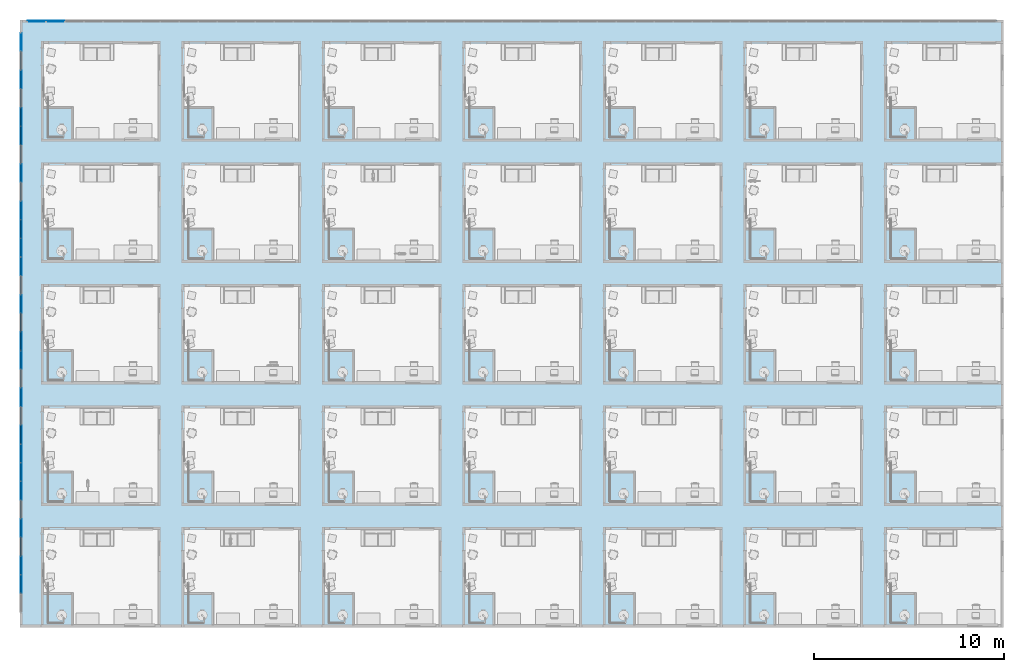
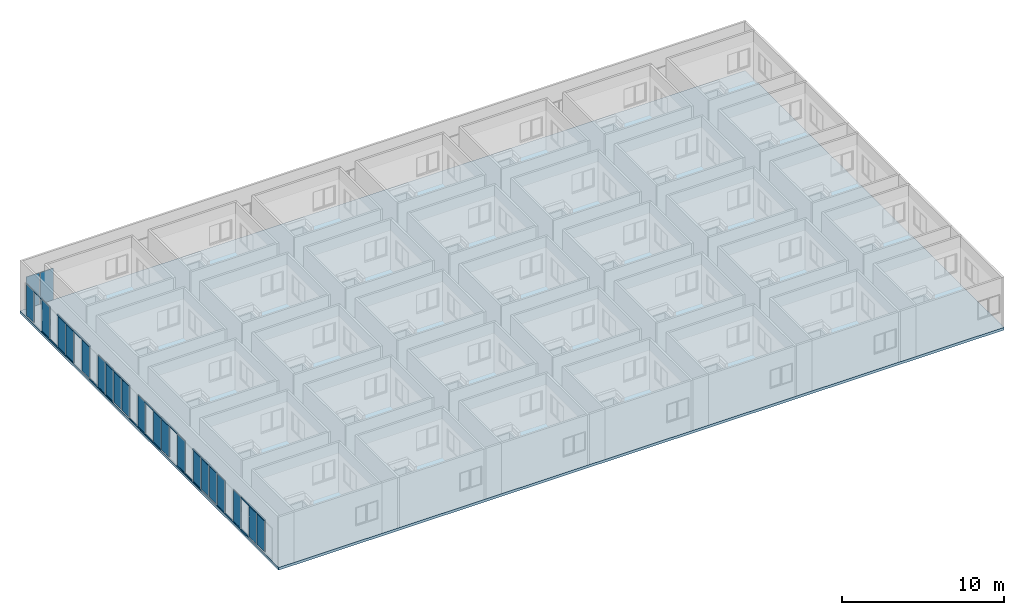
# One storey, part 5 of 71: 36 members, 22 plates, 1 slab, 2 elements without a shape of their own.
"""IFC4 building model written with IfcOpenShell, lengths in centimetres."""

from ifc_helpers import new_model, entity, si_unit, converted_unit, derived_unit, direction, frame, origin, place, context, subcontext, project, spatial, indexed_curve, outline, extrude, source, transform, mapped, material, type_object, type_shapes, element, aggregate, save


model = new_model("IFC4")

# Units and contexts
model_context = context("Model", 3, precision=0.001, world=origin(), true_north=direction((6.123233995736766e-17, 1.0)))
body_context = subcontext(model_context, "Body", "Model", "MODEL_VIEW")
ifc_project = project(units=[si_unit("LENGTHUNIT", "METRE", prefix="CENTI"), si_unit("AREAUNIT", "SQUARE_METRE"), si_unit("VOLUMEUNIT", "CUBIC_METRE"), derived_unit("THERMALTRANSMITTANCEUNIT", [(si_unit("MASSUNIT", "GRAM", prefix="KILO"), 1), (si_unit("THERMODYNAMICTEMPERATUREUNIT", "KELVIN"), -1), (si_unit("TIMEUNIT", "SECOND"), -3)]), converted_unit("PLANEANGLEUNIT", "DEGREE", entity("IfcPlaneAngleMeasure", 0.017453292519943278), si_unit("PLANEANGLEUNIT", "RADIAN"), dimensions=[0, 0, 0, 0, 0, 0, 0]), derived_unit("MASSDENSITYUNIT", [(si_unit("MASSUNIT", "GRAM", prefix="KILO"), 1), (si_unit("LENGTHUNIT", "METRE"), -3)]), derived_unit("VAPORPERMEABILITYUNIT", [(si_unit("LENGTHUNIT", "METRE"), -1), (si_unit("TIMEUNIT", "SECOND"), 1)]), derived_unit("USERDEFINED", [(si_unit("MASSUNIT", "GRAM", prefix="KILO"), 1), (si_unit("TIMEUNIT", "SECOND"), -3), (si_unit("LENGTHUNIT", "METRE"), 3), (si_unit("ELECTRICCURRENTUNIT", "AMPERE"), -2)]), derived_unit("SPECIFICHEATCAPACITYUNIT", [(si_unit("THERMODYNAMICTEMPERATUREUNIT", "KELVIN"), -1), (si_unit("LENGTHUNIT", "METRE"), 2), (si_unit("TIMEUNIT", "SECOND"), -2)]), derived_unit("THERMALCONDUCTANCEUNIT", [(si_unit("MASSUNIT", "GRAM", prefix="KILO"), 1), (si_unit("THERMODYNAMICTEMPERATUREUNIT", "KELVIN"), -1), (si_unit("TIMEUNIT", "SECOND"), -3), (si_unit("LENGTHUNIT", "METRE"), 1)]), si_unit("PRESSUREUNIT", "PASCAL"), derived_unit("MODULUSOFELASTICITYUNIT", [(si_unit("MASSUNIT", "GRAM", prefix="KILO"), 1), (si_unit("LENGTHUNIT", "METRE"), -1), (si_unit("TIMEUNIT", "SECOND"), -2)]), derived_unit("THERMALEXPANSIONCOEFFICIENTUNIT", [(si_unit("THERMODYNAMICTEMPERATUREUNIT", "KELVIN"), -1)])], contexts=[model_context])

# Site, building, storey
site_placement = place(None, origin())
site = spatial("IfcSite", under=ifc_project, at=site_placement, Name="Default", CompositionType="ELEMENT")
building_placement = place(site_placement, origin())
building = spatial("IfcBuilding", under=site, at=building_placement, Name="IDS Escape Game Building", CompositionType="ELEMENT")
storey_placement = place(building_placement, frame((0.0, 0.0, 1200.0)))
storey = spatial("IfcBuildingStorey", under=building, at=storey_placement, Name="03_Third Floor", CompositionType="ELEMENT", Elevation=1200.0)

# Curtain wall, members
curtain_wall_type = type_object("IfcCurtainWallType", Name="Curtain Wall:ARC_31.3_CWA_LIB_bandraam vast 100cm - profiel 60x60_gen_BERSnl", PredefinedType="NOTDEFINED")
curtain_wall_1_placement = place(storey_placement, frame((0.0, 0.0, -1200.0)))
curtain_wall_1 = element("IfcCurtainWall", 1, at=curtain_wall_1_placement, inside=storey, type_object=curtain_wall_type, Name="Curtain Wall:ARC_31.3_CWA_LIB_bandraam vast 100cm - profiel 60x60_gen_BERSnl", ObjectType="Curtain Wall:ARC_31.3_CWA_LIB_bandraam vast 100cm - profiel 60x60_gen_BERSnl", PredefinedType="NOTDEFINED")
ifc_material_1 = material(Name="<Unnamed>")
member_type_1 = type_object("IfcMemberType", Name="Rectangular Mullion:30-_Stijl_Rechthoek_Midden_B60xD60", PredefinedType="MULLION", material=ifc_material_1)
shared_shape_1 = source(origin(), body_context, "Body", "SweptSolid", [
    extrude(outline(indexed_curve([(-3.0, -3.0), (3.0, -3.0), (3.0, 3.0), (-3.0, 3.0), (-3.0, -3.0)], self_intersect=False)), frame((-3.0, 3.0, -98.1935483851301), z_axis=(0.0, 0.0, 1.0), x_axis=(-1.0, 0.0, 0.0)), (0.0, 0.0, 1.0), 98.1935483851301),
])
type_shapes(member_type_1, [shared_shape_1])
member_1_placement = place(curtain_wall_1_placement, frame((-110.0, 2925.61290319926, 1450.0), z_axis=(0.0, -1.0, 0.0), x_axis=(0.0, 0.0, 1.0)))
member_1 = element("IfcMember", 2, at=member_1_placement, type_object=member_type_1, material=ifc_material_1, Name="Rectangular Mullion:30-_Stijl_Rechthoek_Midden_B60xD60", ObjectType="Rectangular Mullion:30-_Stijl_Rechthoek_Midden_B60xD60", PredefinedType="MULLION", context=body_context, shape_type="MappedRepresentation", body=[
    mapped(shared_shape_1, transform((0.0, 0.0, 0.0), scale=1.0)),
])
member_2_placement = place(curtain_wall_1_placement, frame((-110.0, 2631.0322580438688, 1450.0), z_axis=(0.0, -1.0, 0.0), x_axis=(0.0, 0.0, 1.0)))
member_2 = element("IfcMember", 3, at=member_2_placement, type_object=member_type_1, material=ifc_material_1, Name="Rectangular Mullion:30-_Stijl_Rechthoek_Midden_B60xD60", ObjectType="Rectangular Mullion:30-_Stijl_Rechthoek_Midden_B60xD60", PredefinedType="MULLION", context=body_context, shape_type="MappedRepresentation", body=[
    mapped(shared_shape_1, transform((0.0, 0.0, 0.0), scale=1.0)),
])
member_3_placement = place(curtain_wall_1_placement, frame((-110.0, 2532.8387096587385, 1450.0), z_axis=(0.0, -1.0, 0.0), x_axis=(0.0, 0.0, 1.0)))
member_3 = element("IfcMember", 4, at=member_3_placement, type_object=member_type_1, material=ifc_material_1, Name="Rectangular Mullion:30-_Stijl_Rechthoek_Midden_B60xD60", ObjectType="Rectangular Mullion:30-_Stijl_Rechthoek_Midden_B60xD60", PredefinedType="MULLION", context=body_context, shape_type="MappedRepresentation", body=[
    mapped(shared_shape_1, transform((0.0, 0.0, 0.0), scale=1.0)),
])
member_4_placement = place(curtain_wall_1_placement, frame((-110.0, 2434.645161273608, 1450.0), z_axis=(0.0, -1.0, 0.0), x_axis=(0.0, 0.0, 1.0)))
member_4 = element("IfcMember", 5, at=member_4_placement, type_object=member_type_1, material=ifc_material_1, Name="Rectangular Mullion:30-_Stijl_Rechthoek_Midden_B60xD60", ObjectType="Rectangular Mullion:30-_Stijl_Rechthoek_Midden_B60xD60", PredefinedType="MULLION", context=body_context, shape_type="MappedRepresentation", body=[
    mapped(shared_shape_1, transform((0.0, 0.0, 0.0), scale=1.0)),
])
member_5_placement = place(curtain_wall_1_placement, frame((-110.0, 2336.4516128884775, 1450.0), z_axis=(0.0, -1.0, 0.0), x_axis=(0.0, 0.0, 1.0)))
member_5 = element("IfcMember", 6, at=member_5_placement, type_object=member_type_1, material=ifc_material_1, Name="Rectangular Mullion:30-_Stijl_Rechthoek_Midden_B60xD60", ObjectType="Rectangular Mullion:30-_Stijl_Rechthoek_Midden_B60xD60", PredefinedType="MULLION", context=body_context, shape_type="MappedRepresentation", body=[
    mapped(shared_shape_1, transform((0.0, 0.0, 0.0), scale=1.0)),
])
member_6_placement = place(curtain_wall_1_placement, frame((-110.0, 2041.870967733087, 1450.0), z_axis=(0.0, -1.0, 0.0), x_axis=(0.0, 0.0, 1.0)))
member_6 = element("IfcMember", 7, at=member_6_placement, type_object=member_type_1, material=ifc_material_1, Name="Rectangular Mullion:30-_Stijl_Rechthoek_Midden_B60xD60", ObjectType="Rectangular Mullion:30-_Stijl_Rechthoek_Midden_B60xD60", PredefinedType="MULLION", context=body_context, shape_type="MappedRepresentation", body=[
    mapped(shared_shape_1, transform((0.0, 0.0, 0.0), scale=1.0)),
])
member_7_placement = place(curtain_wall_1_placement, frame((-110.0, 1943.6774193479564, 1450.0), z_axis=(0.0, -1.0, 0.0), x_axis=(0.0, 0.0, 1.0)))
member_7 = element("IfcMember", 8, at=member_7_placement, type_object=member_type_1, material=ifc_material_1, Name="Rectangular Mullion:30-_Stijl_Rechthoek_Midden_B60xD60", ObjectType="Rectangular Mullion:30-_Stijl_Rechthoek_Midden_B60xD60", PredefinedType="MULLION", context=body_context, shape_type="MappedRepresentation", body=[
    mapped(shared_shape_1, transform((0.0, 0.0, 0.0), scale=1.0)),
])
member_8_placement = place(curtain_wall_1_placement, frame((-110.0, 1845.4838709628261, 1450.0), z_axis=(0.0, -1.0, 0.0), x_axis=(0.0, 0.0, 1.0)))
member_8 = element("IfcMember", 9, at=member_8_placement, type_object=member_type_1, material=ifc_material_1, Name="Rectangular Mullion:30-_Stijl_Rechthoek_Midden_B60xD60", ObjectType="Rectangular Mullion:30-_Stijl_Rechthoek_Midden_B60xD60", PredefinedType="MULLION", context=body_context, shape_type="MappedRepresentation", body=[
    mapped(shared_shape_1, transform((0.0, 0.0, 0.0), scale=1.0)),
])
member_9_placement = place(curtain_wall_1_placement, frame((-110.0, 1550.903225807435, 1450.0), z_axis=(0.0, -1.0, 0.0), x_axis=(0.0, 0.0, 1.0)))
member_9 = element("IfcMember", 10, at=member_9_placement, type_object=member_type_1, material=ifc_material_1, Name="Rectangular Mullion:30-_Stijl_Rechthoek_Midden_B60xD60", ObjectType="Rectangular Mullion:30-_Stijl_Rechthoek_Midden_B60xD60", PredefinedType="MULLION", context=body_context, shape_type="MappedRepresentation", body=[
    mapped(shared_shape_1, transform((0.0, 0.0, 0.0), scale=1.0)),
])
member_10_placement = place(curtain_wall_1_placement, frame((-110.0, 1452.7096774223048, 1450.0), z_axis=(0.0, -1.0, 0.0), x_axis=(0.0, 0.0, 1.0)))
member_10 = element("IfcMember", 11, at=member_10_placement, type_object=member_type_1, material=ifc_material_1, Name="Rectangular Mullion:30-_Stijl_Rechthoek_Midden_B60xD60", ObjectType="Rectangular Mullion:30-_Stijl_Rechthoek_Midden_B60xD60", PredefinedType="MULLION", context=body_context, shape_type="MappedRepresentation", body=[
    mapped(shared_shape_1, transform((0.0, 0.0, 0.0), scale=1.0)),
])
member_11_placement = place(curtain_wall_1_placement, frame((-110.0, 1354.5161290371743, 1450.0), z_axis=(0.0, -1.0, 0.0), x_axis=(0.0, 0.0, 1.0)))
member_11 = element("IfcMember", 12, at=member_11_placement, type_object=member_type_1, material=ifc_material_1, Name="Rectangular Mullion:30-_Stijl_Rechthoek_Midden_B60xD60", ObjectType="Rectangular Mullion:30-_Stijl_Rechthoek_Midden_B60xD60", PredefinedType="MULLION", context=body_context, shape_type="MappedRepresentation", body=[
    mapped(shared_shape_1, transform((0.0, 0.0, 0.0), scale=1.0)),
])
member_12_placement = place(curtain_wall_1_placement, frame((-110.0, 1256.3225806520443, 1450.0), z_axis=(0.0, -1.0, 0.0), x_axis=(0.0, 0.0, 1.0)))
member_12 = element("IfcMember", 13, at=member_12_placement, type_object=member_type_1, material=ifc_material_1, Name="Rectangular Mullion:30-_Stijl_Rechthoek_Midden_B60xD60", ObjectType="Rectangular Mullion:30-_Stijl_Rechthoek_Midden_B60xD60", PredefinedType="MULLION", context=body_context, shape_type="MappedRepresentation", body=[
    mapped(shared_shape_1, transform((0.0, 0.0, 0.0), scale=1.0)),
])
member_13_placement = place(curtain_wall_1_placement, frame((-110.0, 961.741935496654, 1450.0), z_axis=(0.0, -1.0, 0.0), x_axis=(0.0, 0.0, 1.0)))
member_13 = element("IfcMember", 14, at=member_13_placement, type_object=member_type_1, material=ifc_material_1, Name="Rectangular Mullion:30-_Stijl_Rechthoek_Midden_B60xD60", ObjectType="Rectangular Mullion:30-_Stijl_Rechthoek_Midden_B60xD60", PredefinedType="MULLION", context=body_context, shape_type="MappedRepresentation", body=[
    mapped(shared_shape_1, transform((0.0, 0.0, 0.0), scale=1.0)),
])
member_14_placement = place(curtain_wall_1_placement, frame((-110.0, 863.5483871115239, 1450.0), z_axis=(0.0, -1.0, 0.0), x_axis=(0.0, 0.0, 1.0)))
member_14 = element("IfcMember", 15, at=member_14_placement, type_object=member_type_1, material=ifc_material_1, Name="Rectangular Mullion:30-_Stijl_Rechthoek_Midden_B60xD60", ObjectType="Rectangular Mullion:30-_Stijl_Rechthoek_Midden_B60xD60", PredefinedType="MULLION", context=body_context, shape_type="MappedRepresentation", body=[
    mapped(shared_shape_1, transform((0.0, 0.0, 0.0), scale=1.0)),
])
member_15_placement = place(curtain_wall_1_placement, frame((-110.0, 765.3548387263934, 1450.0), z_axis=(0.0, -1.0, 0.0), x_axis=(0.0, 0.0, 1.0)))
member_15 = element("IfcMember", 16, at=member_15_placement, type_object=member_type_1, material=ifc_material_1, Name="Rectangular Mullion:30-_Stijl_Rechthoek_Midden_B60xD60", ObjectType="Rectangular Mullion:30-_Stijl_Rechthoek_Midden_B60xD60", PredefinedType="MULLION", context=body_context, shape_type="MappedRepresentation", body=[
    mapped(shared_shape_1, transform((0.0, 0.0, 0.0), scale=1.0)),
])
member_16_placement = place(curtain_wall_1_placement, frame((-110.0, 372.58064518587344, 1450.0), z_axis=(0.0, -1.0, 0.0), x_axis=(0.0, 0.0, 1.0)))
member_16 = element("IfcMember", 17, at=member_16_placement, type_object=member_type_1, material=ifc_material_1, Name="Rectangular Mullion:30-_Stijl_Rechthoek_Midden_B60xD60", ObjectType="Rectangular Mullion:30-_Stijl_Rechthoek_Midden_B60xD60", PredefinedType="MULLION", context=body_context, shape_type="MappedRepresentation", body=[
    mapped(shared_shape_1, transform((0.0, 0.0, 0.0), scale=1.0)),
])
member_17_placement = place(curtain_wall_1_placement, frame((-110.0, 274.38709680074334, 1450.0), z_axis=(0.0, -1.0, 0.0), x_axis=(0.0, 0.0, 1.0)))
member_17 = element("IfcMember", 18, at=member_17_placement, type_object=member_type_1, material=ifc_material_1, Name="Rectangular Mullion:30-_Stijl_Rechthoek_Midden_B60xD60", ObjectType="Rectangular Mullion:30-_Stijl_Rechthoek_Midden_B60xD60", PredefinedType="MULLION", context=body_context, shape_type="MappedRepresentation", body=[
    mapped(shared_shape_1, transform((0.0, 0.0, 0.0), scale=1.0)),
])
member_18_placement = place(curtain_wall_1_placement, frame((-110.0, 176.19354841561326, 1450.0), z_axis=(0.0, -1.0, 0.0), x_axis=(0.0, 0.0, 1.0)))
member_18 = element("IfcMember", 19, at=member_18_placement, type_object=member_type_1, material=ifc_material_1, Name="Rectangular Mullion:30-_Stijl_Rechthoek_Midden_B60xD60", ObjectType="Rectangular Mullion:30-_Stijl_Rechthoek_Midden_B60xD60", PredefinedType="MULLION", context=body_context, shape_type="MappedRepresentation", body=[
    mapped(shared_shape_1, transform((0.0, 0.0, 0.0), scale=1.0)),
])
member_type_2 = type_object("IfcMemberType", Name="Rectangular Mullion:30-_Stijl_Rechthoek_Midden_B60xD60", PredefinedType="MULLION", material=ifc_material_1)
shared_shape_2 = source(origin(), body_context, "Body", "SweptSolid", [
    extrude(outline(indexed_curve([(-3.0, -3.0), (3.0, -3.0), (3.0, 3.0), (-3.0, 3.0), (-3.0, -3.0)], self_intersect=False)), frame((-3.0, 3.0, -98.1935483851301), z_axis=(0.0, 0.0, 1.0), x_axis=(-1.0, 0.0, 0.0)), (0.0, 0.0, 1.0), 98.1935483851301),
])
type_shapes(member_type_2, [shared_shape_2])
member_19_placement = place(curtain_wall_1_placement, frame((-110.0, 2925.61290319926, 1200.0), z_axis=(0.0, 1.0, 0.0), x_axis=(0.0, 0.0, -1.0)))
member_19 = element("IfcMember", 20, at=member_19_placement, type_object=member_type_2, material=ifc_material_1, Name="Rectangular Mullion:30-_Stijl_Rechthoek_Midden_B60xD60", ObjectType="Rectangular Mullion:30-_Stijl_Rechthoek_Midden_B60xD60", PredefinedType="MULLION", context=body_context, shape_type="MappedRepresentation", body=[
    mapped(shared_shape_2, transform((0.0, 0.0, 0.0), scale=1.0)),
])
member_20_placement = place(curtain_wall_1_placement, frame((-110.0, 2827.4193548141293, 1200.0), z_axis=(0.0, 1.0, 0.0), x_axis=(0.0, 0.0, -1.0)))
member_20 = element("IfcMember", 21, at=member_20_placement, type_object=member_type_2, material=ifc_material_1, Name="Rectangular Mullion:30-_Stijl_Rechthoek_Midden_B60xD60", ObjectType="Rectangular Mullion:30-_Stijl_Rechthoek_Midden_B60xD60", PredefinedType="MULLION", context=body_context, shape_type="MappedRepresentation", body=[
    mapped(shared_shape_2, transform((0.0, 0.0, 0.0), scale=1.0)),
])
member_21_placement = place(curtain_wall_1_placement, frame((-110.0, 2729.2258064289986, 1200.0), z_axis=(0.0, 1.0, 0.0), x_axis=(0.0, 0.0, -1.0)))
member_21 = element("IfcMember", 22, at=member_21_placement, type_object=member_type_2, material=ifc_material_1, Name="Rectangular Mullion:30-_Stijl_Rechthoek_Midden_B60xD60", ObjectType="Rectangular Mullion:30-_Stijl_Rechthoek_Midden_B60xD60", PredefinedType="MULLION", context=body_context, shape_type="MappedRepresentation", body=[
    mapped(shared_shape_2, transform((0.0, 0.0, 0.0), scale=1.0)),
])
member_22_placement = place(curtain_wall_1_placement, frame((-110.0, 2631.0322580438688, 1200.0), z_axis=(0.0, 1.0, 0.0), x_axis=(0.0, 0.0, -1.0)))
member_22 = element("IfcMember", 23, at=member_22_placement, type_object=member_type_2, material=ifc_material_1, Name="Rectangular Mullion:30-_Stijl_Rechthoek_Midden_B60xD60", ObjectType="Rectangular Mullion:30-_Stijl_Rechthoek_Midden_B60xD60", PredefinedType="MULLION", context=body_context, shape_type="MappedRepresentation", body=[
    mapped(shared_shape_2, transform((0.0, 0.0, 0.0), scale=1.0)),
])
member_23_placement = place(curtain_wall_1_placement, frame((-110.0, 2336.4516128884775, 1200.0), z_axis=(0.0, 1.0, 0.0), x_axis=(0.0, 0.0, -1.0)))
member_23 = element("IfcMember", 24, at=member_23_placement, type_object=member_type_2, material=ifc_material_1, Name="Rectangular Mullion:30-_Stijl_Rechthoek_Midden_B60xD60", ObjectType="Rectangular Mullion:30-_Stijl_Rechthoek_Midden_B60xD60", PredefinedType="MULLION", context=body_context, shape_type="MappedRepresentation", body=[
    mapped(shared_shape_2, transform((0.0, 0.0, 0.0), scale=1.0)),
])
member_24_placement = place(curtain_wall_1_placement, frame((-110.0, 2238.258064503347, 1200.0), z_axis=(0.0, 1.0, 0.0), x_axis=(0.0, 0.0, -1.0)))
member_24 = element("IfcMember", 25, at=member_24_placement, type_object=member_type_2, material=ifc_material_1, Name="Rectangular Mullion:30-_Stijl_Rechthoek_Midden_B60xD60", ObjectType="Rectangular Mullion:30-_Stijl_Rechthoek_Midden_B60xD60", PredefinedType="MULLION", context=body_context, shape_type="MappedRepresentation", body=[
    mapped(shared_shape_2, transform((0.0, 0.0, 0.0), scale=1.0)),
])
member_25_placement = place(curtain_wall_1_placement, frame((-110.0, 2140.0645161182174, 1200.0), z_axis=(0.0, 1.0, 0.0), x_axis=(0.0, 0.0, -1.0)))
member_25 = element("IfcMember", 26, at=member_25_placement, type_object=member_type_2, material=ifc_material_1, Name="Rectangular Mullion:30-_Stijl_Rechthoek_Midden_B60xD60", ObjectType="Rectangular Mullion:30-_Stijl_Rechthoek_Midden_B60xD60", PredefinedType="MULLION", context=body_context, shape_type="MappedRepresentation", body=[
    mapped(shared_shape_2, transform((0.0, 0.0, 0.0), scale=1.0)),
])
member_26_placement = place(curtain_wall_1_placement, frame((-110.0, 1845.4838709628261, 1200.0), z_axis=(0.0, 1.0, 0.0), x_axis=(0.0, 0.0, -1.0)))
member_26 = element("IfcMember", 27, at=member_26_placement, type_object=member_type_2, material=ifc_material_1, Name="Rectangular Mullion:30-_Stijl_Rechthoek_Midden_B60xD60", ObjectType="Rectangular Mullion:30-_Stijl_Rechthoek_Midden_B60xD60", PredefinedType="MULLION", context=body_context, shape_type="MappedRepresentation", body=[
    mapped(shared_shape_2, transform((0.0, 0.0, 0.0), scale=1.0)),
])
member_27_placement = place(curtain_wall_1_placement, frame((-110.0, 1747.2903225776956, 1200.0), z_axis=(0.0, 1.0, 0.0), x_axis=(0.0, 0.0, -1.0)))
member_27 = element("IfcMember", 28, at=member_27_placement, type_object=member_type_2, material=ifc_material_1, Name="Rectangular Mullion:30-_Stijl_Rechthoek_Midden_B60xD60", ObjectType="Rectangular Mullion:30-_Stijl_Rechthoek_Midden_B60xD60", PredefinedType="MULLION", context=body_context, shape_type="MappedRepresentation", body=[
    mapped(shared_shape_2, transform((0.0, 0.0, 0.0), scale=1.0)),
])
member_28_placement = place(curtain_wall_1_placement, frame((-110.0, 1649.0967741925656, 1200.0), z_axis=(0.0, 1.0, 0.0), x_axis=(0.0, 0.0, -1.0)))
member_28 = element("IfcMember", 29, at=member_28_placement, type_object=member_type_2, material=ifc_material_1, Name="Rectangular Mullion:30-_Stijl_Rechthoek_Midden_B60xD60", ObjectType="Rectangular Mullion:30-_Stijl_Rechthoek_Midden_B60xD60", PredefinedType="MULLION", context=body_context, shape_type="MappedRepresentation", body=[
    mapped(shared_shape_2, transform((0.0, 0.0, 0.0), scale=1.0)),
])
member_29_placement = place(curtain_wall_1_placement, frame((-110.0, 1550.9032258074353, 1200.0), z_axis=(0.0, 1.0, 0.0), x_axis=(0.0, 0.0, -1.0)))
member_29 = element("IfcMember", 30, at=member_29_placement, type_object=member_type_2, material=ifc_material_1, Name="Rectangular Mullion:30-_Stijl_Rechthoek_Midden_B60xD60", ObjectType="Rectangular Mullion:30-_Stijl_Rechthoek_Midden_B60xD60", PredefinedType="MULLION", context=body_context, shape_type="MappedRepresentation", body=[
    mapped(shared_shape_2, transform((0.0, 0.0, 0.0), scale=1.0)),
])
member_30_placement = place(curtain_wall_1_placement, frame((-110.0, 1256.3225806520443, 1200.0), z_axis=(0.0, 1.0, 0.0), x_axis=(0.0, 0.0, -1.0)))
member_30 = element("IfcMember", 31, at=member_30_placement, type_object=member_type_2, material=ifc_material_1, Name="Rectangular Mullion:30-_Stijl_Rechthoek_Midden_B60xD60", ObjectType="Rectangular Mullion:30-_Stijl_Rechthoek_Midden_B60xD60", PredefinedType="MULLION", context=body_context, shape_type="MappedRepresentation", body=[
    mapped(shared_shape_2, transform((0.0, 0.0, 0.0), scale=1.0)),
])
member_31_placement = place(curtain_wall_1_placement, frame((-110.0, 1158.1290322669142, 1200.0), z_axis=(0.0, 1.0, 0.0), x_axis=(0.0, 0.0, -1.0)))
member_31 = element("IfcMember", 32, at=member_31_placement, type_object=member_type_2, material=ifc_material_1, Name="Rectangular Mullion:30-_Stijl_Rechthoek_Midden_B60xD60", ObjectType="Rectangular Mullion:30-_Stijl_Rechthoek_Midden_B60xD60", PredefinedType="MULLION", context=body_context, shape_type="MappedRepresentation", body=[
    mapped(shared_shape_2, transform((0.0, 0.0, 0.0), scale=1.0)),
])
member_32_placement = place(curtain_wall_1_placement, frame((-110.0, 1059.9354838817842, 1200.0), z_axis=(0.0, 1.0, 0.0), x_axis=(0.0, 0.0, -1.0)))
member_32 = element("IfcMember", 33, at=member_32_placement, type_object=member_type_2, material=ifc_material_1, Name="Rectangular Mullion:30-_Stijl_Rechthoek_Midden_B60xD60", ObjectType="Rectangular Mullion:30-_Stijl_Rechthoek_Midden_B60xD60", PredefinedType="MULLION", context=body_context, shape_type="MappedRepresentation", body=[
    mapped(shared_shape_2, transform((0.0, 0.0, 0.0), scale=1.0)),
])
member_33_placement = place(curtain_wall_1_placement, frame((-110.0, 765.3548387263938, 1200.0), z_axis=(0.0, 1.0, 0.0), x_axis=(0.0, 0.0, -1.0)))
member_33 = element("IfcMember", 34, at=member_33_placement, type_object=member_type_2, material=ifc_material_1, Name="Rectangular Mullion:30-_Stijl_Rechthoek_Midden_B60xD60", ObjectType="Rectangular Mullion:30-_Stijl_Rechthoek_Midden_B60xD60", PredefinedType="MULLION", context=body_context, shape_type="MappedRepresentation", body=[
    mapped(shared_shape_2, transform((0.0, 0.0, 0.0), scale=1.0)),
])
member_34_placement = place(curtain_wall_1_placement, frame((-110.0, 667.1612903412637, 1200.0), z_axis=(0.0, 1.0, 0.0), x_axis=(0.0, 0.0, -1.0)))
member_34 = element("IfcMember", 35, at=member_34_placement, type_object=member_type_2, material=ifc_material_1, Name="Rectangular Mullion:30-_Stijl_Rechthoek_Midden_B60xD60", ObjectType="Rectangular Mullion:30-_Stijl_Rechthoek_Midden_B60xD60", PredefinedType="MULLION", context=body_context, shape_type="MappedRepresentation", body=[
    mapped(shared_shape_2, transform((0.0, 0.0, 0.0), scale=1.0)),
])
member_35_placement = place(curtain_wall_1_placement, frame((-110.0, 568.9677419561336, 1200.0), z_axis=(0.0, 1.0, 0.0), x_axis=(0.0, 0.0, -1.0)))
member_35 = element("IfcMember", 36, at=member_35_placement, type_object=member_type_2, material=ifc_material_1, Name="Rectangular Mullion:30-_Stijl_Rechthoek_Midden_B60xD60", ObjectType="Rectangular Mullion:30-_Stijl_Rechthoek_Midden_B60xD60", PredefinedType="MULLION", context=body_context, shape_type="MappedRepresentation", body=[
    mapped(shared_shape_2, transform((0.0, 0.0, 0.0), scale=1.0)),
])
member_36_placement = place(curtain_wall_1_placement, frame((-110.0, 470.77419357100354, 1200.0), z_axis=(0.0, 1.0, 0.0), x_axis=(0.0, 0.0, -1.0)))
member_36 = element("IfcMember", 37, at=member_36_placement, type_object=member_type_2, material=ifc_material_1, Name="Rectangular Mullion:30-_Stijl_Rechthoek_Midden_B60xD60", ObjectType="Rectangular Mullion:30-_Stijl_Rechthoek_Midden_B60xD60", PredefinedType="MULLION", context=body_context, shape_type="MappedRepresentation", body=[
    mapped(shared_shape_2, transform((0.0, 0.0, 0.0), scale=1.0)),
])

# Slab
ifc_material_2 = material(Name="ARC_FME.f2_Ef2-Cast-In-Place Concrete_C30/37_gen_BERSnl", Category="f - niet-gebakken kunststeen")
slab_type = type_object("IfcSlabType", Name="Floor:ARC_13_FL_SB_ConcreteCIP-20cm_gen_BERSnl", PredefinedType="FLOOR", material=ifc_material_2)
slab_placement = place(storey_placement, origin())
element("IfcSlab", 38, at=slab_placement, inside=storey, type_object=slab_type, material=ifc_material_2, Name="Floor:ARC_13_FL_SB_ConcreteCIP-20cm_gen_BERSnl", ObjectType="Floor:ARC_13_FL_SB_ConcreteCIP-20cm_gen_BERSnl", PredefinedType="FLOOR", context=body_context, shape_type="SweptSolid", body=[
    extrude(outline(indexed_curve([(-1595.0000000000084, -2582.9999999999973), (1595.0000000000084, -2582.9999999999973), (1595.0000000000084, 2582.9999999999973), (-1595.0000000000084, 2582.9999999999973), (-1595.0000000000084, -2582.9999999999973)], self_intersect=False)), frame((2466.0, 1594.0, 0.0), z_axis=(0.0, 0.0, -1.0), x_axis=(0.0, 1.0, 0.0)), (0.0, 0.0, 1.0), 20.0),
])

# Curtain wall, plates
curtain_wall_2_placement = place(storey_placement, frame((0.0, 0.0, -1200.0)))
curtain_wall_2 = element("IfcCurtainWall", 39, at=curtain_wall_2_placement, inside=storey, type_object=curtain_wall_type, Name="Curtain Wall:ARC_31.3_CWA_LIB_bandraam vast 100cm - profiel 60x60_gen_BERSnl", ObjectType="Curtain Wall:ARC_31.3_CWA_LIB_bandraam vast 100cm - profiel 60x60_gen_BERSnl", PredefinedType="NOTDEFINED")
ifc_material_3 = material(Name="ARC_FME.o1_glass_00_gen_BERSnl", Category="o - glas")
plate_type_1 = type_object("IfcPlateType", Name="System Panel:Glazed", PredefinedType="CURTAIN_PANEL", material=ifc_material_3)
shared_shape_3 = source(origin(), body_context, "Body", "SweptSolid", [
    extrude(outline(indexed_curve([(-2.5, -46.92156864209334), (2.5, -46.92156864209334), (2.5, 46.92156864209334), (-2.5, 46.92156864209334), (-2.5, -46.92156864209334)], self_intersect=False)), frame((0.0, 0.0, 0.0), z_axis=(0.0, 0.0, 1.0), x_axis=(0.0, 1.0, 0.0)), (0.0, 0.0, 1.0), 238.00000000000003),
])
type_shapes(plate_type_1, [shared_shape_3])
plate_1_placement = place(curtain_wall_2_placement, frame((-30.078431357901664, 3182.0, 1206.0)))
plate_1 = element("IfcPlate", 40, at=plate_1_placement, type_object=plate_type_1, material=ifc_material_3, Name="System Panel:Glazed", ObjectType="System Panel:Glazed", PredefinedType="CURTAIN_PANEL", context=body_context, shape_type="MappedRepresentation", body=[
    mapped(shared_shape_3, transform((0.0, 0.0, 0.0), scale=1.0)),
])
plate_2_placement = place(curtain_wall_2_placement, frame((69.76470591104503, 3182.0, 1206.0)))
plate_2 = element("IfcPlate", 41, at=plate_2_placement, type_object=plate_type_1, material=ifc_material_3, Name="System Panel:Glazed", ObjectType="System Panel:Glazed", PredefinedType="CURTAIN_PANEL", context=body_context, shape_type="MappedRepresentation", body=[
    mapped(shared_shape_3, transform((0.0, 0.0, 0.0), scale=1.0)),
])
aggregate(curtain_wall_2, [plate_1, plate_2])

# Plate
plate_type_2 = type_object("IfcPlateType", Name="System Panel:Glazed", PredefinedType="CURTAIN_PANEL", material=ifc_material_3)
shared_shape_4 = source(origin(), body_context, "Body", "SweptSolid", [
    extrude(outline(indexed_curve([(-2.5, -46.09677420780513), (2.5, -46.09677420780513), (2.5, 46.09677420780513), (-2.5, 46.09677420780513), (-2.5, -46.09677420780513)], self_intersect=False)), frame((0.0, 0.0, 0.0), z_axis=(0.0, 0.0, 1.0), x_axis=(0.0, 1.0, 0.0)), (0.0, 0.0, 1.0), 238.00000000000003),
])
type_shapes(plate_type_2, [shared_shape_4])
plate_3_placement = place(curtain_wall_1_placement, frame((-110.0, 3072.9032257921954, 1206.0), z_axis=(0.0, 0.0, 1.0), x_axis=(0.0, -1.0, 0.0)))
plate_3 = element("IfcPlate", 42, at=plate_3_placement, type_object=plate_type_2, material=ifc_material_3, Name="System Panel:Glazed", ObjectType="System Panel:Glazed", PredefinedType="CURTAIN_PANEL", context=body_context, shape_type="MappedRepresentation", body=[
    mapped(shared_shape_4, transform((0.0, 0.0, 0.0), scale=1.0)),
])

plate_4_placement = place(curtain_wall_1_placement, frame((-110.0, 2876.516129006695, 1206.0), z_axis=(0.0, 0.0, 1.0), x_axis=(0.0, -1.0, 0.0)))
plate_4 = element("IfcPlate", 43, at=plate_4_placement, type_object=plate_type_2, material=ifc_material_3, Name="System Panel:Glazed", ObjectType="System Panel:Glazed", PredefinedType="CURTAIN_PANEL", context=body_context, shape_type="MappedRepresentation", body=[
    mapped(shared_shape_4, transform((0.0, 0.0, 0.0), scale=1.0)),
])

plate_5_placement = place(curtain_wall_1_placement, frame((-110.0, 2680.129032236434, 1206.0), z_axis=(0.0, 0.0, 1.0), x_axis=(0.0, -1.0, 0.0)))
plate_5 = element("IfcPlate", 44, at=plate_5_placement, type_object=plate_type_2, material=ifc_material_3, Name="System Panel:Glazed", ObjectType="System Panel:Glazed", PredefinedType="CURTAIN_PANEL", context=body_context, shape_type="MappedRepresentation", body=[
    mapped(shared_shape_4, transform((0.0, 0.0, 0.0), scale=1.0)),
])

plate_6_placement = place(curtain_wall_1_placement, frame((-110.0, 2581.9354838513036, 1206.0), z_axis=(0.0, 0.0, 1.0), x_axis=(0.0, -1.0, 0.0)))
plate_6 = element("IfcPlate", 45, at=plate_6_placement, type_object=plate_type_2, material=ifc_material_3, Name="System Panel:Glazed", ObjectType="System Panel:Glazed", PredefinedType="CURTAIN_PANEL", context=body_context, shape_type="MappedRepresentation", body=[
    mapped(shared_shape_4, transform((0.0, 0.0, 0.0), scale=1.0)),
])

plate_7_placement = place(curtain_wall_1_placement, frame((-110.0, 2385.5483870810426, 1206.0), z_axis=(0.0, 0.0, 1.0), x_axis=(0.0, -1.0, 0.0)))
plate_7 = element("IfcPlate", 46, at=plate_7_placement, type_object=plate_type_2, material=ifc_material_3, Name="System Panel:Glazed", ObjectType="System Panel:Glazed", PredefinedType="CURTAIN_PANEL", context=body_context, shape_type="MappedRepresentation", body=[
    mapped(shared_shape_4, transform((0.0, 0.0, 0.0), scale=1.0)),
])

plate_8_placement = place(curtain_wall_1_placement, frame((-110.0, 2189.1612903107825, 1206.0), z_axis=(0.0, 0.0, 1.0), x_axis=(0.0, -1.0, 0.0)))
plate_8 = element("IfcPlate", 47, at=plate_8_placement, type_object=plate_type_2, material=ifc_material_3, Name="System Panel:Glazed", ObjectType="System Panel:Glazed", PredefinedType="CURTAIN_PANEL", context=body_context, shape_type="MappedRepresentation", body=[
    mapped(shared_shape_4, transform((0.0, 0.0, 0.0), scale=1.0)),
])

plate_9_placement = place(curtain_wall_1_placement, frame((-110.0, 2090.9677419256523, 1206.0), z_axis=(0.0, 0.0, 1.0), x_axis=(0.0, -1.0, 0.0)))
plate_9 = element("IfcPlate", 48, at=plate_9_placement, type_object=plate_type_2, material=ifc_material_3, Name="System Panel:Glazed", ObjectType="System Panel:Glazed", PredefinedType="CURTAIN_PANEL", context=body_context, shape_type="MappedRepresentation", body=[
    mapped(shared_shape_4, transform((0.0, 0.0, 0.0), scale=1.0)),
])

plate_10_placement = place(curtain_wall_1_placement, frame((-110.0, 1992.7741935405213, 1206.0), z_axis=(0.0, 0.0, 1.0), x_axis=(0.0, -1.0, 0.0)))
plate_10 = element("IfcPlate", 49, at=plate_10_placement, type_object=plate_type_2, material=ifc_material_3, Name="System Panel:Glazed", ObjectType="System Panel:Glazed", PredefinedType="CURTAIN_PANEL", context=body_context, shape_type="MappedRepresentation", body=[
    mapped(shared_shape_4, transform((0.0, 0.0, 0.0), scale=1.0)),
])

plate_11_placement = place(curtain_wall_1_placement, frame((-110.0, 1894.5806451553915, 1206.0), z_axis=(0.0, 0.0, 1.0), x_axis=(0.0, -1.0, 0.0)))
plate_11 = element("IfcPlate", 50, at=plate_11_placement, type_object=plate_type_2, material=ifc_material_3, Name="System Panel:Glazed", ObjectType="System Panel:Glazed", PredefinedType="CURTAIN_PANEL", context=body_context, shape_type="MappedRepresentation", body=[
    mapped(shared_shape_4, transform((0.0, 0.0, 0.0), scale=1.0)),
])

plate_12_placement = place(curtain_wall_1_placement, frame((-110.0, 1698.1935483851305, 1206.0), z_axis=(0.0, 0.0, 1.0), x_axis=(0.0, -1.0, 0.0)))
plate_12 = element("IfcPlate", 51, at=plate_12_placement, type_object=plate_type_2, material=ifc_material_3, Name="System Panel:Glazed", ObjectType="System Panel:Glazed", PredefinedType="CURTAIN_PANEL", context=body_context, shape_type="MappedRepresentation", body=[
    mapped(shared_shape_4, transform((0.0, 0.0, 0.0), scale=1.0)),
])

plate_13_placement = place(curtain_wall_1_placement, frame((-110.0, 1501.80645161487, 1206.0), z_axis=(0.0, 0.0, 1.0), x_axis=(0.0, -1.0, 0.0)))
plate_13 = element("IfcPlate", 52, at=plate_13_placement, type_object=plate_type_2, material=ifc_material_3, Name="System Panel:Glazed", ObjectType="System Panel:Glazed", PredefinedType="CURTAIN_PANEL", context=body_context, shape_type="MappedRepresentation", body=[
    mapped(shared_shape_4, transform((0.0, 0.0, 0.0), scale=1.0)),
])

plate_14_placement = place(curtain_wall_1_placement, frame((-110.0, 1403.6129032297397, 1206.0), z_axis=(0.0, 0.0, 1.0), x_axis=(0.0, -1.0, 0.0)))
plate_14 = element("IfcPlate", 53, at=plate_14_placement, type_object=plate_type_2, material=ifc_material_3, Name="System Panel:Glazed", ObjectType="System Panel:Glazed", PredefinedType="CURTAIN_PANEL", context=body_context, shape_type="MappedRepresentation", body=[
    mapped(shared_shape_4, transform((0.0, 0.0, 0.0), scale=1.0)),
])

plate_15_placement = place(curtain_wall_1_placement, frame((-110.0, 1207.2258064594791, 1206.0), z_axis=(0.0, 0.0, 1.0), x_axis=(0.0, -1.0, 0.0)))
plate_15 = element("IfcPlate", 54, at=plate_15_placement, type_object=plate_type_2, material=ifc_material_3, Name="System Panel:Glazed", ObjectType="System Panel:Glazed", PredefinedType="CURTAIN_PANEL", context=body_context, shape_type="MappedRepresentation", body=[
    mapped(shared_shape_4, transform((0.0, 0.0, 0.0), scale=1.0)),
])

plate_16_placement = place(curtain_wall_1_placement, frame((-110.0, 1010.8387096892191, 1206.0), z_axis=(0.0, 0.0, 1.0), x_axis=(0.0, -1.0, 0.0)))
plate_16 = element("IfcPlate", 55, at=plate_16_placement, type_object=plate_type_2, material=ifc_material_3, Name="System Panel:Glazed", ObjectType="System Panel:Glazed", PredefinedType="CURTAIN_PANEL", context=body_context, shape_type="MappedRepresentation", body=[
    mapped(shared_shape_4, transform((0.0, 0.0, 0.0), scale=1.0)),
])

plate_17_placement = place(curtain_wall_1_placement, frame((-110.0, 912.645161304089, 1206.0), z_axis=(0.0, 0.0, 1.0), x_axis=(0.0, -1.0, 0.0)))
plate_17 = element("IfcPlate", 56, at=plate_17_placement, type_object=plate_type_2, material=ifc_material_3, Name="System Panel:Glazed", ObjectType="System Panel:Glazed", PredefinedType="CURTAIN_PANEL", context=body_context, shape_type="MappedRepresentation", body=[
    mapped(shared_shape_4, transform((0.0, 0.0, 0.0), scale=1.0)),
])

plate_18_placement = place(curtain_wall_1_placement, frame((-110.0, 814.4516129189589, 1206.0), z_axis=(0.0, 0.0, 1.0), x_axis=(0.0, -1.0, 0.0)))
plate_18 = element("IfcPlate", 57, at=plate_18_placement, type_object=plate_type_2, material=ifc_material_3, Name="System Panel:Glazed", ObjectType="System Panel:Glazed", PredefinedType="CURTAIN_PANEL", context=body_context, shape_type="MappedRepresentation", body=[
    mapped(shared_shape_4, transform((0.0, 0.0, 0.0), scale=1.0)),
])

plate_19_placement = place(curtain_wall_1_placement, frame((-110.0, 716.2580645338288, 1206.0), z_axis=(0.0, 0.0, 1.0), x_axis=(0.0, -1.0, 0.0)))
plate_19 = element("IfcPlate", 58, at=plate_19_placement, type_object=plate_type_2, material=ifc_material_3, Name="System Panel:Glazed", ObjectType="System Panel:Glazed", PredefinedType="CURTAIN_PANEL", context=body_context, shape_type="MappedRepresentation", body=[
    mapped(shared_shape_4, transform((0.0, 0.0, 0.0), scale=1.0)),
])

plate_20_placement = place(curtain_wall_1_placement, frame((-110.0, 519.8709677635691, 1206.0), z_axis=(0.0, 0.0, 1.0), x_axis=(0.0, -1.0, 0.0)))
plate_20 = element("IfcPlate", 59, at=plate_20_placement, type_object=plate_type_2, material=ifc_material_3, Name="System Panel:Glazed", ObjectType="System Panel:Glazed", PredefinedType="CURTAIN_PANEL", context=body_context, shape_type="MappedRepresentation", body=[
    mapped(shared_shape_4, transform((0.0, 0.0, 0.0), scale=1.0)),
])

plate_21_placement = place(curtain_wall_1_placement, frame((-110.0, 323.4838709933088, 1206.0), z_axis=(0.0, 0.0, 1.0), x_axis=(0.0, -1.0, 0.0)))
plate_21 = element("IfcPlate", 60, at=plate_21_placement, type_object=plate_type_2, material=ifc_material_3, Name="System Panel:Glazed", ObjectType="System Panel:Glazed", PredefinedType="CURTAIN_PANEL", context=body_context, shape_type="MappedRepresentation", body=[
    mapped(shared_shape_4, transform((0.0, 0.0, 0.0), scale=1.0)),
])

plate_22_placement = place(curtain_wall_1_placement, frame((-110.0, 225.29032260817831, 1206.0), z_axis=(0.0, 0.0, 1.0), x_axis=(0.0, -1.0, 0.0)))
plate_22 = element("IfcPlate", 61, at=plate_22_placement, type_object=plate_type_2, material=ifc_material_3, Name="System Panel:Glazed", ObjectType="System Panel:Glazed", PredefinedType="CURTAIN_PANEL", context=body_context, shape_type="MappedRepresentation", body=[
    mapped(shared_shape_4, transform((0.0, 0.0, 0.0), scale=1.0)),
])

aggregate(curtain_wall_1, [plate_3, plate_4, plate_5, plate_6, plate_7, plate_8, plate_9, plate_10, plate_11, plate_12, plate_13, plate_14, plate_15, plate_16, plate_17, plate_18, plate_19, plate_20, plate_21, plate_22, member_1, member_2, member_3, member_4, member_5, member_6, member_7, member_8, member_9, member_10, member_11, member_12, member_13, member_14, member_15, member_16, member_17, member_18, member_19, member_20, member_21, member_22, member_23, member_24, member_25, member_26, member_27, member_28, member_29, member_30, member_31, member_32, member_33, member_34, member_35, member_36])

save(model, "model.ifc")
